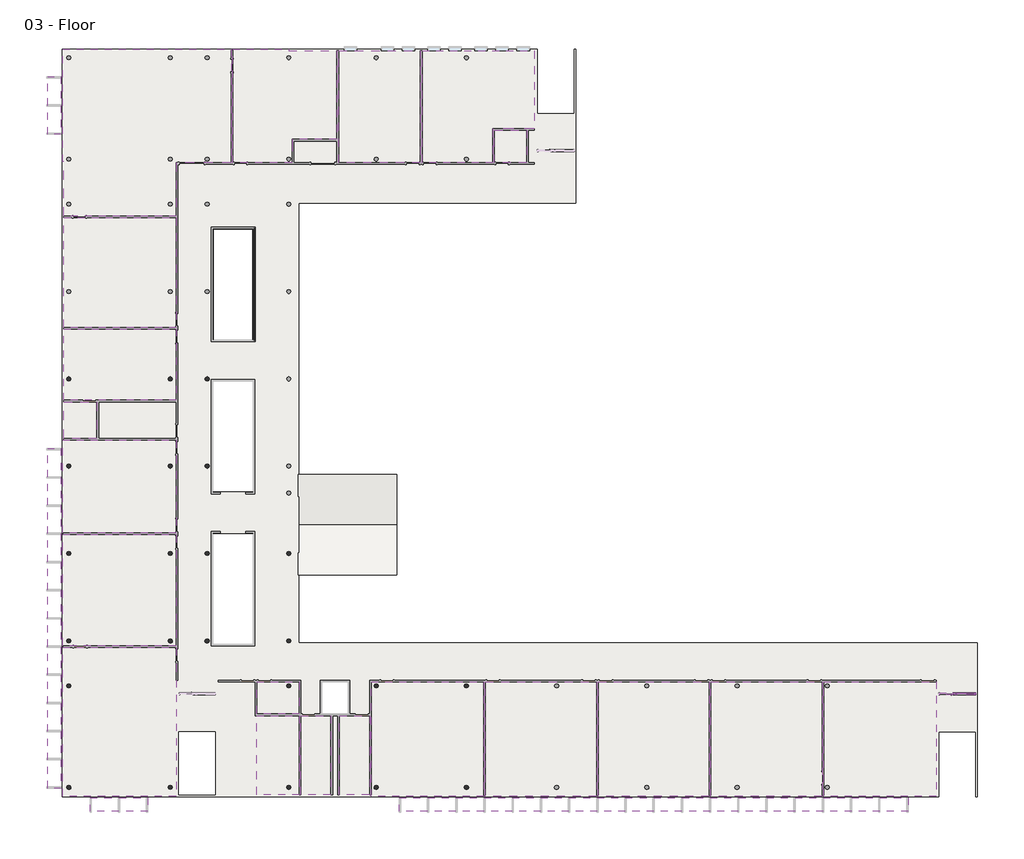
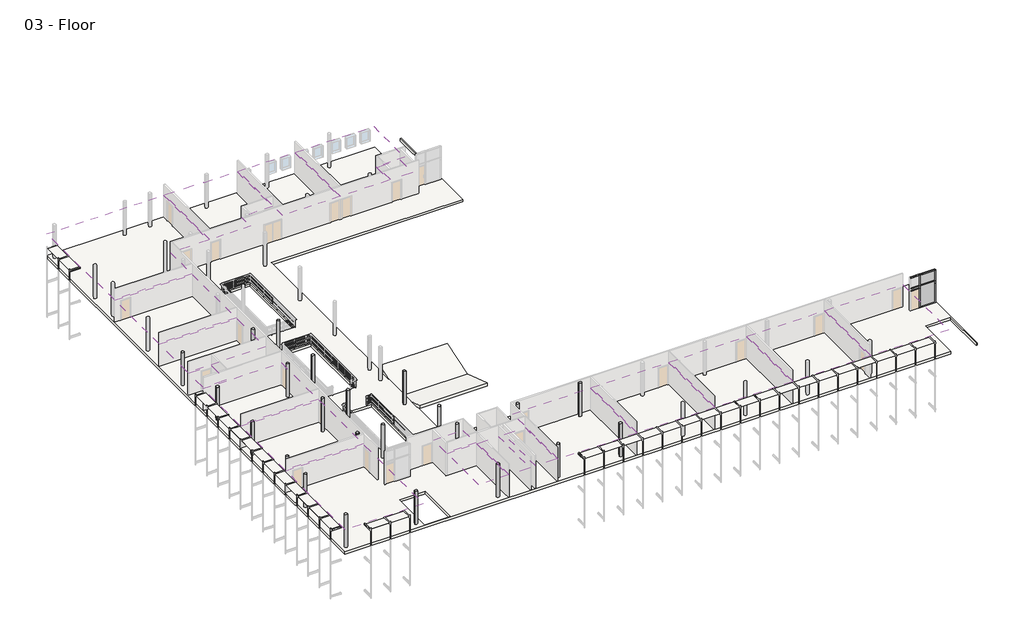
# One storey, part 3 of 4: 23 columns, 20 coverings, 14 members, 5 slabs, 2 plates, 1 roof.
"""IFC4 building model written with IfcOpenShell, lengths in millimetres."""

from ifc_helpers import new_model, si_unit, point, frame, frame_2d, origin, place, context, project, spatial, polyline, circle_curve, trimmed, segment, composite_curve, outline, extrude, transform, mapped, element, save
from components import member_2b49869a, member_75074519, member_410c6227, member_73c23c35, member_6186cc23, member_5d67b9fc, member_a50b3cda, member_c327c56d, member_6c34f49c, member_dff87739, member_76223ac8, member_e7b2e991, system_panel_glazed_00df446d, system_panel_glazed_835a6d4f

model = new_model("IFC4")

# Units and contexts
model_context = context("Model", 3, world=origin())
ifc_project = project(units=[si_unit("LENGTHUNIT", "METRE", prefix="MILLI")], contexts=[model_context])

# Site, building, storey
site = spatial("IfcSite", under=ifc_project)
building = spatial("IfcBuilding", under=site)
storey = spatial("IfcBuildingStorey", under=building, Name="03 - Floor", Elevation=7315.2)

# Columns
placement = place(None, origin())
element("IfcColumn", 1, ObjectType="Concrete-Round-Column : 12\"", at=placement, inside=storey, context=model_context, shape_type="SweptSolid", body=[
    extrude(outline(composite_curve([segment(trimmed(circle_curve(frame_2d((635.9207476, 30064.0)), 152.4), [point((788.3207476, 30064.0))], [point((483.5207476, 30064.0))], False, "CARTESIAN"), True, "CONTINUOUS"), segment(trimmed(circle_curve(frame_2d((635.9207476, 30064.0)), 152.4), [point((483.5207476, 30064.0))], [point((788.3207476, 30064.0))], False, "CARTESIAN"), True, "CONTINUOUS")], self_intersect=False)), frame((0.0, 0.0, 7315.2), z_axis=(0.0, 0.0, 1.0), x_axis=(1.0, 0.0, 0.0)), (0.0, 0.0, 1.0), 3657.6),
])
element("IfcColumn", 2, ObjectType="Concrete-Round-Column : 12\"", at=placement, inside=storey, context=model_context, shape_type="SweptSolid", body=[
    extrude(outline(composite_curve([segment(trimmed(circle_curve(frame_2d((635.9207476, 23764.8)), 152.4), [point((788.3207476, 23764.8))], [point((483.5207476, 23764.8))], False, "CARTESIAN"), True, "CONTINUOUS"), segment(trimmed(circle_curve(frame_2d((635.9207476, 23764.8)), 152.4), [point((483.5207476, 23764.8))], [point((788.3207476, 23764.8))], False, "CARTESIAN"), True, "CONTINUOUS")], self_intersect=False)), frame((0.0, 0.0, 7315.2), z_axis=(0.0, 0.0, 1.0), x_axis=(1.0, 0.0, 0.0)), (0.0, 0.0, 1.0), 3657.6),
])
element("IfcColumn", 3, ObjectType="Concrete-Round-Column : 12\"", at=placement, inside=storey, context=model_context, shape_type="SweptSolid", body=[
    extrude(outline(composite_curve([segment(trimmed(circle_curve(frame_2d((635.9207476, 17465.6)), 152.4), [point((788.3207476, 17465.6))], [point((483.5207476, 17465.6))], False, "CARTESIAN"), True, "CONTINUOUS"), segment(trimmed(circle_curve(frame_2d((635.9207476, 17465.6)), 152.4), [point((483.5207476, 17465.6))], [point((788.3207476, 17465.6))], False, "CARTESIAN"), True, "CONTINUOUS")], self_intersect=False)), frame((0.0, 0.0, 7315.2), z_axis=(0.0, 0.0, 1.0), x_axis=(1.0, 0.0, 0.0)), (0.0, 0.0, 1.0), 3657.6),
])
element("IfcColumn", 4, ObjectType="Concrete-Round-Column : 12\"", at=placement, inside=storey, context=model_context, shape_type="SweptSolid", body=[
    extrude(outline(composite_curve([segment(trimmed(circle_curve(frame_2d((635.9207476, 11166.4)), 152.4), [point((788.3207476, 11166.4))], [point((483.5207476, 11166.4))], False, "CARTESIAN"), True, "CONTINUOUS"), segment(trimmed(circle_curve(frame_2d((635.9207476, 11166.4)), 152.4), [point((483.5207476, 11166.4))], [point((788.3207476, 11166.4))], False, "CARTESIAN"), True, "CONTINUOUS")], self_intersect=False)), frame((0.0, 0.0, 7315.2), z_axis=(0.0, 0.0, 1.0), x_axis=(1.0, 0.0, 0.0)), (0.0, 0.0, 1.0), 3657.6),
])
element("IfcColumn", 5, ObjectType="Concrete-Round-Column : 12\"", at=placement, inside=storey, context=model_context, shape_type="SweptSolid", body=[
    extrude(outline(composite_curve([segment(trimmed(circle_curve(frame_2d((635.9207476, 7915.2)), 152.4), [point((788.3207476, 7915.2))], [point((483.5207476, 7915.2))], False, "CARTESIAN"), True, "CONTINUOUS"), segment(trimmed(circle_curve(frame_2d((635.9207476, 7915.2)), 152.4), [point((483.5207476, 7915.2))], [point((788.3207476, 7915.2))], False, "CARTESIAN"), True, "CONTINUOUS")], self_intersect=False)), frame((0.0, 0.0, 7315.2), z_axis=(0.0, 0.0, 1.0), x_axis=(1.0, 0.0, 0.0)), (0.0, 0.0, 1.0), 3657.6),
])
element("IfcColumn", 6, ObjectType="Concrete-Round-Column : 12\"", at=placement, inside=storey, context=model_context, shape_type="SweptSolid", body=[
    extrude(outline(composite_curve([segment(trimmed(circle_curve(frame_2d((635.9207476, 600.0)), 152.4), [point((788.3207476, 600.0))], [point((483.5207476, 600.0))], False, "CARTESIAN"), True, "CONTINUOUS"), segment(trimmed(circle_curve(frame_2d((635.9207476, 600.0)), 152.4), [point((483.5207476, 600.0))], [point((788.3207476, 600.0))], False, "CARTESIAN"), True, "CONTINUOUS")], self_intersect=False)), frame((0.0, 0.0, 7315.2), z_axis=(0.0, 0.0, 1.0), x_axis=(1.0, 0.0, 0.0)), (0.0, 0.0, 1.0), 3657.6),
])
element("IfcColumn", 7, ObjectType="Concrete-Round-Column : 12\"", at=placement, inside=storey, context=model_context, shape_type="SweptSolid", body=[
    extrude(outline(composite_curve([segment(trimmed(circle_curve(frame_2d((10592.7207476, 30064.0)), 152.4), [point((10745.1207476, 30064.0))], [point((10440.3207476, 30064.0))], False, "CARTESIAN"), True, "CONTINUOUS"), segment(trimmed(circle_curve(frame_2d((10592.7207476, 30064.0)), 152.4), [point((10440.3207476, 30064.0))], [point((10745.1207476, 30064.0))], False, "CARTESIAN"), True, "CONTINUOUS")], self_intersect=False)), frame((0.0, 0.0, 7315.2), z_axis=(0.0, 0.0, 1.0), x_axis=(1.0, 0.0, 0.0)), (0.0, 0.0, 1.0), 3657.6),
])
element("IfcColumn", 8, ObjectType="Concrete-Round-Column : 12\"", at=placement, inside=storey, context=model_context, shape_type="SweptSolid", body=[
    extrude(outline(composite_curve([segment(trimmed(circle_curve(frame_2d((10592.7207476, 23764.8)), 152.4), [point((10745.1207476, 23764.8))], [point((10440.3207476, 23764.8))], False, "CARTESIAN"), True, "CONTINUOUS"), segment(trimmed(circle_curve(frame_2d((10592.7207476, 23764.8)), 152.4), [point((10440.3207476, 23764.8))], [point((10745.1207476, 23764.8))], False, "CARTESIAN"), True, "CONTINUOUS")], self_intersect=False)), frame((0.0, 0.0, 7315.2), z_axis=(0.0, 0.0, 1.0), x_axis=(1.0, 0.0, 0.0)), (0.0, 0.0, 1.0), 3657.6),
])
element("IfcColumn", 9, ObjectType="Concrete-Round-Column : 12\"", at=placement, inside=storey, context=model_context, shape_type="SweptSolid", body=[
    extrude(outline(composite_curve([segment(trimmed(circle_curve(frame_2d((10592.7207476, 17465.6)), 152.4), [point((10745.1207476, 17465.6))], [point((10440.3207476, 17465.6))], False, "CARTESIAN"), True, "CONTINUOUS"), segment(trimmed(circle_curve(frame_2d((10592.7207476, 17465.6)), 152.4), [point((10440.3207476, 17465.6))], [point((10745.1207476, 17465.6))], False, "CARTESIAN"), True, "CONTINUOUS")], self_intersect=False)), frame((0.0, 0.0, 7315.2), z_axis=(0.0, 0.0, 1.0), x_axis=(1.0, 0.0, 0.0)), (0.0, 0.0, 1.0), 3657.6),
])
element("IfcColumn", 10, ObjectType="Concrete-Round-Column : 12\"", at=placement, inside=storey, context=model_context, shape_type="SweptSolid", body=[
    extrude(outline(composite_curve([segment(trimmed(circle_curve(frame_2d((10592.7207476, 11166.4)), 152.4), [point((10745.1207476, 11166.4))], [point((10440.3207476, 11166.4))], False, "CARTESIAN"), True, "CONTINUOUS"), segment(trimmed(circle_curve(frame_2d((10592.7207476, 11166.4)), 152.4), [point((10440.3207476, 11166.4))], [point((10745.1207476, 11166.4))], False, "CARTESIAN"), True, "CONTINUOUS")], self_intersect=False)), frame((0.0, 0.0, 7315.2), z_axis=(0.0, 0.0, 1.0), x_axis=(1.0, 0.0, 0.0)), (0.0, 0.0, 1.0), 3657.6),
])
element("IfcColumn", 11, ObjectType="Concrete-Round-Column : 12\"", at=placement, inside=storey, context=model_context, shape_type="SweptSolid", body=[
    extrude(outline(composite_curve([segment(trimmed(circle_curve(frame_2d((16485.5207476, 17465.6)), 152.4), [point((16637.9207476, 17465.6))], [point((16333.1207476, 17465.6))], False, "CARTESIAN"), True, "CONTINUOUS"), segment(trimmed(circle_curve(frame_2d((16485.5207476, 17465.6)), 152.4), [point((16333.1207476, 17465.6))], [point((16637.9207476, 17465.6))], False, "CARTESIAN"), True, "CONTINUOUS")], self_intersect=False)), frame((0.0, 0.0, 7315.2), z_axis=(0.0, 0.0, 1.0), x_axis=(1.0, 0.0, 0.0)), (0.0, 0.0, 1.0), 3657.6),
])
element("IfcColumn", 12, ObjectType="Concrete-Round-Column : 12\"", at=placement, inside=storey, context=model_context, shape_type="SweptSolid", body=[
    extrude(outline(composite_curve([segment(trimmed(circle_curve(frame_2d((16485.5207476, 11166.4)), 152.4), [point((16637.9207476, 11166.4))], [point((16333.1207476, 11166.4))], False, "CARTESIAN"), True, "CONTINUOUS"), segment(trimmed(circle_curve(frame_2d((16485.5207476, 11166.4)), 152.4), [point((16333.1207476, 11166.4))], [point((16637.9207476, 11166.4))], False, "CARTESIAN"), True, "CONTINUOUS")], self_intersect=False)), frame((0.0, 0.0, 7315.2), z_axis=(0.0, 0.0, 1.0), x_axis=(1.0, 0.0, 0.0)), (0.0, 0.0, 1.0), 3657.6),
])
element("IfcColumn", 13, ObjectType="Concrete-Round-Column : 12\"", at=placement, inside=storey, context=model_context, shape_type="SweptSolid", body=[
    extrude(outline(composite_curve([segment(trimmed(circle_curve(frame_2d((16485.5207476, 7915.2)), 152.4), [point((16637.9207476, 7915.2))], [point((16333.1207476, 7915.2))], False, "CARTESIAN"), True, "CONTINUOUS"), segment(trimmed(circle_curve(frame_2d((16485.5207476, 7915.2)), 152.4), [point((16333.1207476, 7915.2))], [point((16637.9207476, 7915.2))], False, "CARTESIAN"), True, "CONTINUOUS")], self_intersect=False)), frame((0.0, 0.0, 7315.2), z_axis=(0.0, 0.0, 1.0), x_axis=(1.0, 0.0, 0.0)), (0.0, 0.0, 1.0), 3657.6),
])
element("IfcColumn", 14, ObjectType="Concrete-Round-Column : 12\"", at=placement, inside=storey, context=model_context, shape_type="SweptSolid", body=[
    extrude(outline(composite_curve([segment(trimmed(circle_curve(frame_2d((16485.5207476, 600.0)), 152.4), [point((16637.9207476, 600.0))], [point((16333.1207476, 600.0))], False, "CARTESIAN"), True, "CONTINUOUS"), segment(trimmed(circle_curve(frame_2d((16485.5207476, 600.0)), 152.4), [point((16333.1207476, 600.0))], [point((16637.9207476, 600.0))], False, "CARTESIAN"), True, "CONTINUOUS")], self_intersect=False)), frame((0.0, 0.0, 7315.2), z_axis=(0.0, 0.0, 1.0), x_axis=(1.0, 0.0, 0.0)), (0.0, 0.0, 1.0), 3657.6),
])
element("IfcColumn", 15, ObjectType="Concrete-Round-Column : 12\"", at=placement, inside=storey, context=model_context, shape_type="SweptSolid", body=[
    extrude(outline(composite_curve([segment(trimmed(circle_curve(frame_2d((22784.7207476, 7915.2)), 152.4), [point((22937.1207476, 7915.2))], [point((22632.3207476, 7915.2))], False, "CARTESIAN"), True, "CONTINUOUS"), segment(trimmed(circle_curve(frame_2d((22784.7207476, 7915.2)), 152.4), [point((22632.3207476, 7915.2))], [point((22937.1207476, 7915.2))], False, "CARTESIAN"), True, "CONTINUOUS")], self_intersect=False)), frame((0.0, 0.0, 7315.2), z_axis=(0.0, 0.0, 1.0), x_axis=(1.0, 0.0, 0.0)), (0.0, 0.0, 1.0), 3657.6),
])
element("IfcColumn", 16, ObjectType="Concrete-Round-Column : 12\"", at=placement, inside=storey, context=model_context, shape_type="SweptSolid", body=[
    extrude(outline(composite_curve([segment(trimmed(circle_curve(frame_2d((22784.7207476, 600.0)), 152.4), [point((22937.1207476, 600.0))], [point((22632.3207476, 600.0))], False, "CARTESIAN"), True, "CONTINUOUS"), segment(trimmed(circle_curve(frame_2d((22784.7207476, 600.0)), 152.4), [point((22632.3207476, 600.0))], [point((22937.1207476, 600.0))], False, "CARTESIAN"), True, "CONTINUOUS")], self_intersect=False)), frame((0.0, 0.0, 7315.2), z_axis=(0.0, 0.0, 1.0), x_axis=(1.0, 0.0, 0.0)), (0.0, 0.0, 1.0), 3657.6),
])
element("IfcColumn", 17, ObjectType="Concrete-Round-Column : 12\"", at=placement, inside=storey, context=model_context, shape_type="SweptSolid", body=[
    extrude(outline(composite_curve([segment(trimmed(circle_curve(frame_2d((29287.1207476, 7915.2)), 152.4), [point((29439.5207476, 7915.2))], [point((29134.7207476, 7915.2))], False, "CARTESIAN"), True, "CONTINUOUS"), segment(trimmed(circle_curve(frame_2d((29287.1207476, 7915.2)), 152.4), [point((29134.7207476, 7915.2))], [point((29439.5207476, 7915.2))], False, "CARTESIAN"), True, "CONTINUOUS")], self_intersect=False)), frame((0.0, 0.0, 7315.2), z_axis=(0.0, 0.0, 1.0), x_axis=(1.0, 0.0, 0.0)), (0.0, 0.0, 1.0), 3657.6),
])
element("IfcColumn", 18, ObjectType="Concrete-Round-Column : 12\"", at=placement, inside=storey, context=model_context, shape_type="SweptSolid", body=[
    extrude(outline(composite_curve([segment(trimmed(circle_curve(frame_2d((29287.1207476, 600.0)), 152.4), [point((29439.5207476, 600.0))], [point((29134.7207476, 600.0))], False, "CARTESIAN"), True, "CONTINUOUS"), segment(trimmed(circle_curve(frame_2d((29287.1207476, 600.0)), 152.4), [point((29134.7207476, 600.0))], [point((29439.5207476, 600.0))], False, "CARTESIAN"), True, "CONTINUOUS")], self_intersect=False)), frame((0.0, 0.0, 7315.2), z_axis=(0.0, 0.0, 1.0), x_axis=(1.0, 0.0, 0.0)), (0.0, 0.0, 1.0), 3657.6),
])
element("IfcColumn", 19, ObjectType="Concrete-Round-Column : 12\"", at=placement, inside=storey, context=model_context, shape_type="SweptSolid", body=[
    extrude(outline(composite_curve([segment(trimmed(circle_curve(frame_2d((7951.1207476, 30064.0)), 152.4), [point((8103.5207476, 30064.0))], [point((7798.7207476, 30064.0))], False, "CARTESIAN"), True, "CONTINUOUS"), segment(trimmed(circle_curve(frame_2d((7951.1207476, 30064.0)), 152.4), [point((7798.7207476, 30064.0))], [point((8103.5207476, 30064.0))], False, "CARTESIAN"), True, "CONTINUOUS")], self_intersect=False)), frame((0.0, 0.0, 7315.2), z_axis=(0.0, 0.0, 1.0), x_axis=(1.0, 0.0, 0.0)), (0.0, 0.0, 1.0), 3657.6),
])
element("IfcColumn", 20, ObjectType="Concrete-Round-Column : 12\"", at=placement, inside=storey, context=model_context, shape_type="SweptSolid", body=[
    extrude(outline(composite_curve([segment(trimmed(circle_curve(frame_2d((7951.1207476, 23764.8)), 152.4), [point((8103.5207476, 23764.8))], [point((7798.7207476, 23764.8))], False, "CARTESIAN"), True, "CONTINUOUS"), segment(trimmed(circle_curve(frame_2d((7951.1207476, 23764.8)), 152.4), [point((7798.7207476, 23764.8))], [point((8103.5207476, 23764.8))], False, "CARTESIAN"), True, "CONTINUOUS")], self_intersect=False)), frame((0.0, 0.0, 7315.2), z_axis=(0.0, 0.0, 1.0), x_axis=(1.0, 0.0, 0.0)), (0.0, 0.0, 1.0), 3657.6),
])
element("IfcColumn", 21, ObjectType="Concrete-Round-Column : 12\"", at=placement, inside=storey, context=model_context, shape_type="SweptSolid", body=[
    extrude(outline(composite_curve([segment(trimmed(circle_curve(frame_2d((7951.1207476, 17465.6)), 152.4), [point((8103.5207476, 17465.6))], [point((7798.7207476, 17465.6))], False, "CARTESIAN"), True, "CONTINUOUS"), segment(trimmed(circle_curve(frame_2d((7951.1207476, 17465.6)), 152.4), [point((7798.7207476, 17465.6))], [point((8103.5207476, 17465.6))], False, "CARTESIAN"), True, "CONTINUOUS")], self_intersect=False)), frame((0.0, 0.0, 7315.2), z_axis=(0.0, 0.0, 1.0), x_axis=(1.0, 0.0, 0.0)), (0.0, 0.0, 1.0), 3657.6),
])
element("IfcColumn", 22, ObjectType="Concrete-Round-Column : 12\"", at=placement, inside=storey, context=model_context, shape_type="SweptSolid", body=[
    extrude(outline(composite_curve([segment(trimmed(circle_curve(frame_2d((7951.1207476, 11166.4)), 152.4), [point((8103.5207476, 11166.4))], [point((7798.7207476, 11166.4))], False, "CARTESIAN"), True, "CONTINUOUS"), segment(trimmed(circle_curve(frame_2d((7951.1207476, 11166.4)), 152.4), [point((7798.7207476, 11166.4))], [point((8103.5207476, 11166.4))], False, "CARTESIAN"), True, "CONTINUOUS")], self_intersect=False)), frame((0.0, 0.0, 7315.2), z_axis=(0.0, 0.0, 1.0), x_axis=(1.0, 0.0, 0.0)), (0.0, 0.0, 1.0), 3657.6),
])
element("IfcColumn", 23, ObjectType="Concrete-Round-Column : 12\"", at=placement, inside=storey, context=model_context, shape_type="SweptSolid", body=[
    extrude(outline(composite_curve([segment(trimmed(circle_curve(frame_2d((7951.1207476, 600.0)), 152.4), [point((8103.5207476, 600.0))], [point((7798.7207476, 600.0))], False, "CARTESIAN"), True, "CONTINUOUS"), segment(trimmed(circle_curve(frame_2d((7951.1207476, 600.0)), 152.4), [point((7798.7207476, 600.0))], [point((8103.5207476, 600.0))], False, "CARTESIAN"), True, "CONTINUOUS")], self_intersect=False)), frame((0.0, 0.0, 7315.2), z_axis=(0.0, 0.0, 1.0), x_axis=(1.0, 0.0, 0.0)), (0.0, 0.0, 1.0), 3657.6),
])

# Coverings
element("IfcCovering", 24, ObjectType="2' x 2' ACT System", at=placement, inside=storey, context=model_context, shape_type="SweptSolid", body=[
    extrude(outline(polyline([(26093.0707476, 45659.6), (26093.0707476, 53724.1), (34194.0832476, 53724.1), (34194.0832476, 48104.35), (31198.4707476, 48104.35), (31198.4707476, 45659.6), (26093.0707476, 45659.6)])), frame((0.0, 0.0, 9753.6), z_axis=(0.0, 0.0, 1.0), x_axis=(1.0, 0.0, 0.0)), (0.0, 0.0, 1.0), 57.15),
])
element("IfcCovering", 25, ObjectType="2' x 2' ACT System", at=placement, inside=storey, context=model_context, shape_type="SweptSolid", body=[
    extrude(outline(polyline([(33636.8707476, 45659.6), (31312.7707476, 45659.6), (31312.7707476, 47990.05), (33636.8707476, 47990.05), (33636.8707476, 45659.6)])), frame((0.0, 0.0, 9753.6), z_axis=(0.0, 0.0, 1.0), x_axis=(1.0, 0.0, 0.0)), (0.0, 0.0, 1.0), 57.15),
])
element("IfcCovering", 26, ObjectType="2' x 2' ACT System", at=placement, inside=storey, context=model_context, shape_type="SweptSolid", body=[
    extrude(outline(polyline([(20073.2707476, 45659.6), (20073.2707476, 53724.1), (25978.7707476, 53724.1), (25978.7707476, 45659.6), (20073.2707476, 45659.6)])), frame((0.0, 0.0, 9753.6), z_axis=(0.0, 0.0, 1.0), x_axis=(1.0, 0.0, 0.0)), (0.0, 0.0, 1.0), 57.15),
])
element("IfcCovering", 27, ObjectType="2' x 2' ACT System", at=placement, inside=storey, context=model_context, shape_type="SweptSolid", body=[
    extrude(outline(polyline([(12453.2707476, 53825.7), (16491.8707476, 53825.7), (16491.8707476, 53724.1), (19958.9707476, 53724.1), (19958.9707476, 47338.3500002), (16720.4707476, 47338.3500002), (16720.4707476, 45659.6), (12453.2707476, 45659.6), (12453.2707476, 53825.7)])), frame((0.0, 0.0, 9753.6), z_axis=(0.0, 0.0, 1.0), x_axis=(1.0, 0.0, 0.0)), (0.0, 0.0, 1.0), 57.15),
])
element("IfcCovering", 28, ObjectType="2' x 2' ACT System", at=placement, inside=storey, context=model_context, shape_type="SweptSolid", body=[
    extrude(outline(polyline([(280.3207476, 41805.15), (280.3207476, 45729.45), (178.7207476, 45729.45), (178.7207476, 53825.7), (12338.9707476, 53825.7), (12338.9707476, 45659.6), (8357.5207476, 45659.6), (8357.5207476, 41805.15), (280.3207476, 41805.15)])), frame((0.0, 0.0, 9753.6), z_axis=(0.0, 0.0, 1.0), x_axis=(1.0, 0.0, 0.0)), (0.0, 0.0, 1.0), 57.15),
])
element("IfcCovering", 29, ObjectType="2' x 2' ACT System", at=placement, inside=storey, context=model_context, shape_type="SweptSolid", body=[
    extrude(outline(polyline([(8357.5207476, 33778.75), (280.3207476, 33778.75), (280.3207476, 41690.85), (8357.5207476, 41690.85), (8357.5207476, 33778.75)])), frame((0.0, 0.0, 9753.6), z_axis=(0.0, 0.0, 1.0), x_axis=(1.0, 0.0, 0.0)), (0.0, 0.0, 1.0), 57.15),
])
element("IfcCovering", 30, ObjectType="2' x 2' ACT System", at=placement, inside=storey, context=model_context, shape_type="SweptSolid", body=[
    extrude(outline(polyline([(8357.5207476, 28520.95), (280.3207476, 28520.95), (280.3207476, 33664.45), (8357.5207476, 33664.45), (8357.5207476, 28520.95)])), frame((0.0, 0.0, 9753.6), z_axis=(0.0, 0.0, 1.0), x_axis=(1.0, 0.0, 0.0)), (0.0, 0.0, 1.0), 57.15),
])
element("IfcCovering", 31, ObjectType="2' x 2' ACT System", at=placement, inside=storey, context=model_context, shape_type="SweptSolid", body=[
    extrude(outline(polyline([(8357.5207476, 18945.15), (178.7207476, 18945.15), (178.7207476, 25638.05), (8357.5207476, 25638.05), (8357.5207476, 18945.15)])), frame((0.0, 0.0, 9753.6), z_axis=(0.0, 0.0, 1.0), x_axis=(1.0, 0.0, 0.0)), (0.0, 0.0, 1.0), 57.15),
])
element("IfcCovering", 32, ObjectType="2' x 2' ACT System", at=placement, inside=storey, context=model_context, shape_type="SweptSolid", body=[
    extrude(outline(polyline([(8357.5207476, 10817.15), (178.7207476, 10817.15), (178.7207476, 18830.85), (8357.5207476, 18830.85), (8357.5207476, 10817.15)])), frame((0.0, 0.0, 9753.6), z_axis=(0.0, 0.0, 1.0), x_axis=(1.0, 0.0, 0.0)), (0.0, 0.0, 1.0), 57.15),
])
element("IfcCovering", 33, ObjectType="2' x 2' ACT System", at=placement, inside=storey, context=model_context, shape_type="SweptSolid", body=[
    extrude(outline(polyline([(14180.4707476, 8220.0), (17241.1707476, 8220.0), (17241.1707476, 5889.55), (14180.4707476, 5889.55), (14180.4707476, 8220.0)])), frame((0.0, 0.0, 9753.6), z_axis=(0.0, 0.0, 1.0), x_axis=(1.0, 0.0, 0.0)), (0.0, 0.0, 1.0), 57.15),
])
element("IfcCovering", 34, ObjectType="2' x 2' ACT System", at=placement, inside=storey, context=model_context, shape_type="SweptSolid", body=[
    extrude(outline(polyline([(17241.1707476, 5775.25), (17241.1707476, 53.9), (14180.4707476, 53.9), (14180.4707476, 5775.25), (17241.1707476, 5775.25)])), frame((0.0, 0.0, 9753.6), z_axis=(0.0, 0.0, 1.0), x_axis=(1.0, 0.0, 0.0)), (0.0, 0.0, 1.0), 57.15),
])
element("IfcCovering", 35, ObjectType="2' x 2' ACT System", at=placement, inside=storey, context=model_context, shape_type="SweptSolid", body=[
    extrude(outline(polyline([(19527.1707476, 53.9), (17355.4707476, 53.9), (17355.4707476, 5775.25), (19527.1707476, 5775.25), (19527.1707476, 53.9)])), frame((0.0, 0.0, 9753.6), z_axis=(0.0, 0.0, 1.0), x_axis=(1.0, 0.0, 0.0)), (0.0, 0.0, 1.0), 57.15),
])
element("IfcCovering", 36, ObjectType="2' x 2' ACT System", at=placement, inside=storey, context=model_context, shape_type="SweptSolid", body=[
    extrude(outline(polyline([(22308.4707476, 5775.25), (22308.4707476, 53.9), (20124.0707476, 53.9), (20124.0707476, 5775.25), (22308.4707476, 5775.25)])), frame((0.0, 0.0, 9753.6), z_axis=(0.0, 0.0, 1.0), x_axis=(1.0, 0.0, 0.0)), (0.0, 0.0, 1.0), 57.15),
])
element("IfcCovering", 37, ObjectType="2' x 2' ACT System", at=placement, inside=storey, context=model_context, shape_type="SweptSolid", body=[
    extrude(outline(polyline([(30538.0707476, 8220.0), (30538.0707476, -47.7), (22422.7707476, -47.7), (22422.7707476, 8220.0), (30538.0707476, 8220.0)])), frame((0.0, 0.0, 9753.6), z_axis=(0.0, 0.0, 1.0), x_axis=(1.0, 0.0, 0.0)), (0.0, 0.0, 1.0), 57.15),
])
element("IfcCovering", 38, ObjectType="2' x 2' ACT System", at=placement, inside=storey, context=model_context, shape_type="SweptSolid", body=[
    extrude(outline(polyline([(38666.0707476, 8220.0), (38666.0707476, -47.7), (30652.3707476, -47.7), (30652.3707476, 8220.0), (38666.0707476, 8220.0)])), frame((0.0, 0.0, 9753.6), z_axis=(0.0, 0.0, 1.0), x_axis=(1.0, 0.0, 0.0)), (0.0, 0.0, 1.0), 57.15),
])
element("IfcCovering", 39, ObjectType="2' x 2' ACT System", at=placement, inside=storey, context=model_context, shape_type="SweptSolid", body=[
    extrude(outline(polyline([(46794.0707476, 8220.0), (46794.0707476, -47.7), (38780.3707476, -47.7), (38780.3707476, 8220.0), (46794.0707476, 8220.0)])), frame((0.0, 0.0, 9753.6), z_axis=(0.0, 0.0, 1.0), x_axis=(1.0, 0.0, 0.0)), (0.0, 0.0, 1.0), 57.15),
])
element("IfcCovering", 40, ObjectType="2' x 2' ACT System", at=placement, inside=storey, context=model_context, shape_type="SweptSolid", body=[
    extrude(outline(polyline([(54922.0707476, 8220.0), (54922.0707476, -47.7), (46908.3707476, -47.7), (46908.3707476, 8220.0), (54922.0707476, 8220.0)])), frame((0.0, 0.0, 9753.6), z_axis=(0.0, 0.0, 1.0), x_axis=(1.0, 0.0, 0.0)), (0.0, 0.0, 1.0), 57.15),
])
element("IfcCovering", 41, ObjectType="2' x 2' ACT System", at=placement, inside=storey, context=model_context, shape_type="SweptSolid", body=[
    extrude(outline(polyline([(63137.3832476, 8220.0), (63137.3832476, -47.7), (55036.3707476, -47.7), (55036.3707476, 8220.0), (63137.3832476, 8220.0)])), frame((0.0, 0.0, 9753.6), z_axis=(0.0, 0.0, 1.0), x_axis=(1.0, 0.0, 0.0)), (0.0, 0.0, 1.0), 57.15),
])
element("IfcCovering", 42, ObjectType="2' x 2' ACT System", at=placement, inside=storey, context=model_context, shape_type="SweptSolid", body=[
    extrude(outline(polyline([(8357.5207476, -47.7), (178.7207476, -47.7), (178.7207476, 10702.85), (8357.5207476, 10702.85), (8357.5207476, 8334.3), (8357.5207476, -47.7)])), frame((0.0, 0.0, 9753.6), z_axis=(0.0, 0.0, 1.0), x_axis=(1.0, 0.0, 0.0)), (0.0, 0.0, 1.0), 57.15),
])
element("IfcCovering", 43, ObjectType="2' x 2' ACT System", at=placement, inside=storey, context=model_context, shape_type="SweptSolid", body=[
    extrude(outline(polyline([(2661.5707476, 25752.35), (280.3207476, 25752.35), (280.3207476, 28406.65), (2661.5707476, 28406.65), (2661.5707476, 25752.35)])), frame((0.0, 0.0, 9753.6), z_axis=(0.0, 0.0, 1.0), x_axis=(1.0, 0.0, 0.0)), (0.0, 0.0, 1.0), 57.15),
])

# Members
member_shape = member_2b49869a(model_context)
element("IfcMember", 44, ObjectType="Rectangular Mullion : 2.5\" x 5\" rectangular", at=placement, inside=storey, context=model_context, shape_type="MappedRepresentation", body=[
    mapped(member_shape, transform((64358.1707476, 7356.4, 9753.6), x_axis=(1.0, 0.0, 0.0), y_axis=(0.0, -1.0, 0.0), z_axis=(0.0, 0.0, -1.0))),
])
member_2_shape = member_75074519(model_context)
element("IfcMember", 45, ObjectType="Rectangular Mullion : 2.5\" x 5\" rectangular", at=placement, inside=storey, context=model_context, shape_type="MappedRepresentation", body=[
    mapped(member_2_shape, transform((66002.8207476, 7356.4, 9753.6), x_axis=(1.0, 0.0, 0.0), y_axis=(0.0, -1.0, 0.0), z_axis=(0.0, 0.0, -1.0))),
])
member_3_shape = member_410c6227(model_context)
element("IfcMember", 46, ObjectType="Rectangular Mullion : 2.5\" x 5\" rectangular", at=placement, inside=storey, context=model_context, shape_type="MappedRepresentation", body=[
    mapped(member_3_shape, transform((64326.4207476, 7356.4, 9753.6), x_axis=(0.0, 0.0, 1.0), y_axis=(0.0, -1.0, 0.0), z_axis=(1.0, 0.0, 0.0))),
])
element("IfcMember", 47, ObjectType="Rectangular Mullion : 2.5\" x 5\" rectangular", at=placement, inside=storey, context=model_context, shape_type="MappedRepresentation", body=[
    mapped(member_3_shape, transform((64326.4207476, 7356.4, 9480.55), x_axis=(0.0, 0.0, 1.0), y_axis=(0.0, -1.0, 0.0), z_axis=(1.0, 0.0, 0.0))),
])
member_4_shape = member_73c23c35(model_context)
element("IfcMember", 48, ObjectType="Rectangular Mullion : 2.5\" x 5\" rectangular", at=placement, inside=storey, context=model_context, shape_type="MappedRepresentation", body=[
    mapped(member_4_shape, transform((64326.4207476, 7356.4, 10972.8), x_axis=(0.0, 0.0, 1.0), y_axis=(0.0, -1.0, 0.0), z_axis=(1.0, 0.0, 0.0))),
])
member_5_shape = member_6186cc23(model_context)
element("IfcMember", 49, ObjectType="Rectangular Mullion : 2.5\" x 5\" rectangular", at=placement, inside=storey, context=model_context, shape_type="MappedRepresentation", body=[
    mapped(member_5_shape, transform((64358.1707476, 7356.4, 7315.2), x_axis=(1.0, 0.0, 0.0), y_axis=(0.0, -1.0, 0.0), z_axis=(0.0, 0.0, -1.0))),
])
member_6_shape = member_5d67b9fc(model_context)
element("IfcMember", 50, ObjectType="Rectangular Mullion : 2.5\" x 5\" rectangular", at=placement, inside=storey, context=model_context, shape_type="MappedRepresentation", body=[
    mapped(member_6_shape, transform((64358.1707476, 7356.4, 9480.55), x_axis=(1.0, 0.0, 0.0), y_axis=(0.0, -1.0, 0.0), z_axis=(0.0, 0.0, -1.0))),
])
member_7_shape = member_a50b3cda(model_context)
element("IfcMember", 51, ObjectType="Rectangular Mullion : 2.5\" x 5\" rectangular", at=placement, inside=storey, context=model_context, shape_type="MappedRepresentation", body=[
    mapped(member_7_shape, transform((66002.8207476, 7356.4, 7315.2), x_axis=(1.0, 0.0, 0.0), y_axis=(0.0, -1.0, 0.0), z_axis=(0.0, 0.0, -1.0))),
])
member_8_shape = member_c327c56d(model_context)
element("IfcMember", 52, ObjectType="Rectangular Mullion : 2.5\" x 5\" rectangular", at=placement, inside=storey, context=model_context, shape_type="MappedRepresentation", body=[
    mapped(member_8_shape, transform((66002.8207476, 7356.4, 9480.55), x_axis=(1.0, 0.0, 0.0), y_axis=(0.0, -1.0, 0.0), z_axis=(0.0, 0.0, -1.0))),
])
member_9_shape = member_6c34f49c(model_context)
element("IfcMember", 53, ObjectType="Rectangular Mullion : 2.5\" x 5\" rectangular", at=placement, inside=storey, context=model_context, shape_type="MappedRepresentation", body=[
    mapped(member_9_shape, transform((64389.9207476, 7356.4, 7315.2), x_axis=(0.0, 0.0, -1.0), y_axis=(0.0, -1.0, 0.0), z_axis=(-1.0, 0.0, 0.0))),
])
member_10_shape = member_dff87739(model_context)
element("IfcMember", 54, ObjectType="Rectangular Mullion : 2.5\" x 5\" rectangular", at=placement, inside=storey, context=model_context, shape_type="MappedRepresentation", body=[
    mapped(member_10_shape, transform((64675.6707476, 7356.4, 9753.6), x_axis=(0.0, 0.0, 1.0), y_axis=(0.0, -1.0, 0.0), z_axis=(1.0, 0.0, 0.0))),
])
member_11_shape = member_76223ac8(model_context)
element("IfcMember", 55, ObjectType="Rectangular Mullion : 2.5\" x 5\" rectangular", at=placement, inside=storey, context=model_context, shape_type="MappedRepresentation", body=[
    mapped(member_11_shape, transform((65939.3207476, 7356.4, 9753.6), x_axis=(0.0, 0.0, 1.0), y_axis=(0.0, -1.0, 0.0), z_axis=(1.0, 0.0, 0.0))),
])
member_12_shape = member_e7b2e991(model_context)
element("IfcMember", 56, ObjectType="Rectangular Mullion : 2.5\" x 5\" rectangular", at=placement, inside=storey, context=model_context, shape_type="MappedRepresentation", body=[
    mapped(member_12_shape, transform((65939.3207476, 7356.4, 10972.8), x_axis=(0.0, 0.0, 1.0), y_axis=(0.0, -1.0, 0.0), z_axis=(1.0, 0.0, 0.0))),
])
element("IfcMember", 57, ObjectType="Rectangular Mullion : 2.5\" x 5\" rectangular", at=placement, inside=storey, context=model_context, shape_type="MappedRepresentation", body=[
    mapped(member_9_shape, transform((64675.6707476, 7356.4, 10972.8), x_axis=(0.0, 0.0, 1.0), y_axis=(0.0, -1.0, 0.0), z_axis=(1.0, 0.0, 0.0))),
])

# Plates
system_panel_glazed_shape = system_panel_glazed_00df446d(model_context)
element("IfcPlate", 58, ObjectType="System Panel : Glazed", at=placement, inside=storey, context=model_context, shape_type="MappedRepresentation", body=[
    mapped(system_panel_glazed_shape, transform((65164.6207476, 7356.4, 7378.7), x_axis=(1.0, 0.0, 0.0), y_axis=(0.0, 1.0, 0.0), z_axis=(0.0, 0.0, 1.0))),
])
system_panel_glazed_2_shape = system_panel_glazed_835a6d4f(model_context)
element("IfcPlate", 59, ObjectType="System Panel : Glazed", at=placement, inside=storey, context=model_context, shape_type="MappedRepresentation", body=[
    mapped(system_panel_glazed_2_shape, transform((65164.6207476, 7356.4, 9785.35), x_axis=(1.0, 0.0, 0.0), y_axis=(0.0, 1.0, 0.0), z_axis=(0.0, 0.0, 1.0))),
])

# Roof
element("IfcRoof", 60, ObjectType="Generic - 12\"", at=placement, inside=storey, context=model_context, shape_type="SweptSolid", body=[
    extrude(outline(polyline([(15941.6, 7839.6874103), (19548.4, 6637.4207436), (23155.2, 7839.6874103), (23155.2, 7518.4), (19548.4, 6316.1333333), (15941.6, 7518.4), (15941.6, 7839.6874103)])), frame((17184.0207476, 0.0, 0.0), z_axis=(1.0, 0.0, 0.0), x_axis=(0.0, 1.0, 0.0)), (0.0, 0.0, 1.0), 7067.790772),
])

# Slabs
element("IfcSlab", 61, ObjectType="8\" Hollow Core Plank w/2\" Topping", at=placement, inside=storey, context=model_context, shape_type="SweptSolid", body=[
    extrude(outline(polyline([(159.6707476, -66.75), (159.6707476, 53844.75), (34405.2207476, 53844.75), (34405.2207476, 49177.5), (37046.8207476, 49177.5), (37046.8207476, 53844.75), (37167.4707476, 53844.75), (37167.4707476, 42732.25), (17203.0707476, 42732.25), (17203.0707476, 11020.35), (66123.4707476, 11020.35), (66123.4707476, -66.75), (65990.1207476, -66.75), (65990.1207476, 4600.5), (63348.5207476, 4600.5), (63348.5207476, -66.75), (159.6707476, -66.75)]), holes=[polyline([(13861.9313552, 32908.8), (13861.9313552, 40833.6), (11071.9313551, 40833.6), (11071.9313551, 32908.8), (13861.9313552, 32908.8)]), polyline([(13871.9313552, 21936.0), (13871.9313552, 29860.8), (11051.7313551, 29860.8), (11051.7313551, 21936.0), (13871.9313552, 21936.0)]), polyline([(13871.9313551, 10963.2), (13871.9313551, 18888.0), (11051.7313551, 18888.0), (11051.7313551, 10963.2), (13871.9313551, 10963.2)]), polyline([(11202.3207476, 53.9), (11202.3207476, 4600.5), (8560.7207476, 4600.5), (8560.7207476, 53.9), (11202.3207476, 53.9)]), polyline([(20765.4207476, 5895.9), (20765.4207476, 8207.3), (18885.8207476, 8207.3), (18885.8207476, 5895.9), (20765.4207476, 5895.9)])]), frame((0.0, 0.0, 7061.2), z_axis=(0.0, 0.0, 1.0), x_axis=(1.0, 0.0, 0.0)), (0.0, 0.0, 1.0), 254.0),
])
element("IfcSlab", 62, ObjectType="Metal Sunscreen", at=placement, inside=storey, context=model_context, shape_type="SweptSolid", body=[
    extrude(outline(polyline([(6325.5207476, -1127.2), (2159.9207476, -1127.2), (2159.9207476, -162.0), (6325.5207476, -162.0), (6325.5207476, -1127.2)])), frame((0.0, 0.0, 9740.9), z_axis=(0.0, 0.0, 1.0), x_axis=(1.0, 0.0, 0.0)), (0.0, 0.0, 1.0), 12.7),
])
element("IfcSlab", 63, ObjectType="Metal Sunscreen", at=placement, inside=storey, context=model_context, shape_type="SweptSolid", body=[
    extrude(outline(polyline([(61126.0207476, -1127.2), (24448.4207476, -1127.2), (24448.4207476, -162.0), (61126.0207476, -162.0), (61126.0207476, -1127.2)])), frame((0.0, 0.0, 9740.9), z_axis=(0.0, 0.0, 1.0), x_axis=(1.0, 0.0, 0.0)), (0.0, 0.0, 1.0), 12.7),
])
element("IfcSlab", 64, ObjectType="Metal Sunscreen", at=placement, inside=storey, context=model_context, shape_type="SweptSolid", body=[
    extrude(outline(polyline([(64.4207476, 549.2), (-900.7792524, 549.2), (-900.7792524, 25034.8), (64.4207476, 25034.8), (64.4207476, 549.2)])), frame((0.0, 0.0, 9740.9), z_axis=(0.0, 0.0, 1.0), x_axis=(1.0, 0.0, 0.0)), (0.0, 0.0, 1.0), 12.7),
])
element("IfcSlab", 65, ObjectType="Metal Sunscreen", at=placement, inside=storey, context=model_context, shape_type="SweptSolid", body=[
    extrude(outline(polyline([(64.4207476, 47697.95), (-900.7792524, 47697.95), (-900.7792524, 51863.55), (64.4207476, 51863.55), (64.4207476, 47697.95)])), frame((0.0, 0.0, 9740.9), z_axis=(0.0, 0.0, 1.0), x_axis=(1.0, 0.0, 0.0)), (0.0, 0.0, 1.0), 12.7),
])

save(model, "model.ifc")
